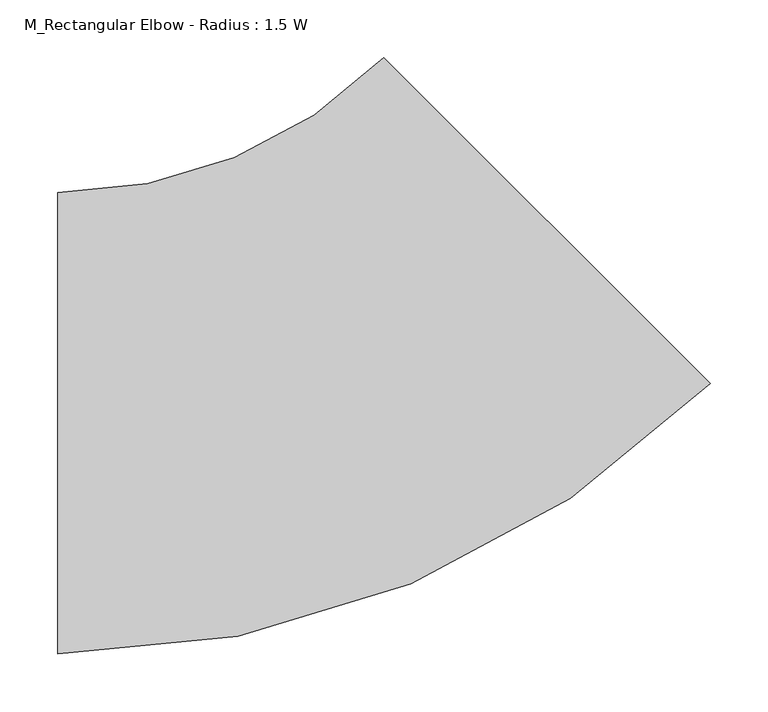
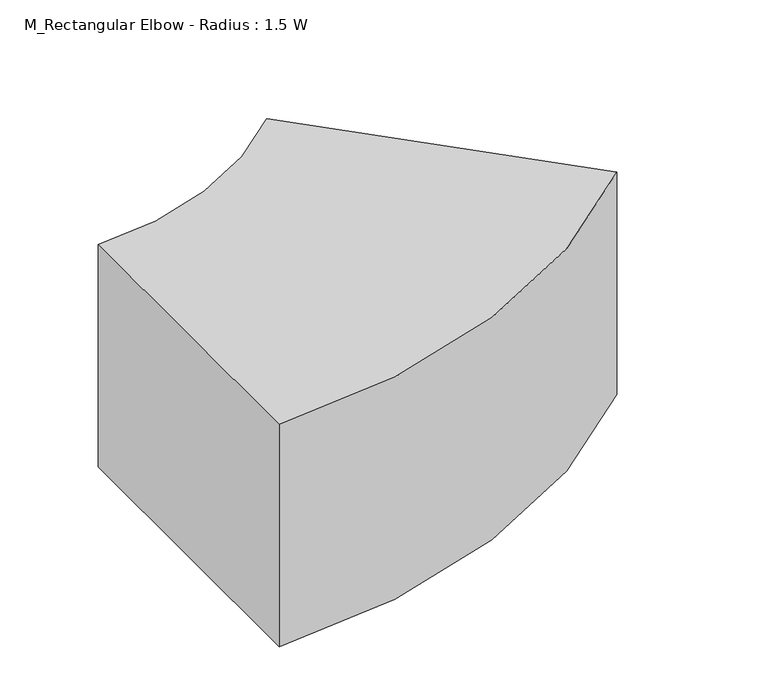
"""IFC4 building model written with IfcOpenShell, lengths in millimetres: duct fitting geometry, M_Rectangular Elbow - Radius : 1.5 W."""

from ifc_helpers import new_model, si_unit, point, frame, frame_2d, origin, place, context, project, spatial, polyline, circle_curve, trimmed, segment, composite_curve, outline, extrude, source, transform, mapped, element, save


def m_rectangular_elbow_radius_1_5_w_52539924(model_context):
    return source(origin(), model_context, "Body", "SweptSolid", [
        extrude(outline(composite_curve([segment(trimmed(circle_curve(frame_2d((-248.5281374, 600.0)), 800.0), [point((317.1572875, 34.3145751))], [point((-248.5281374, -200.0))], False, "CARTESIAN"), True, "CONTINUOUS"), segment(polyline([(-248.5281374, -200.0), (-248.5281374, 200.0)]), True, "CONTINUOUS"), segment(trimmed(circle_curve(frame_2d((-248.5281374, 600.0)), 400.0), [point((-248.5281374, 200.0))], [point((34.3145751, 317.1572875))], True, "CARTESIAN"), True, "CONTINUOUS"), segment(polyline([(34.3145751, 317.1572875), (317.1572875, 34.3145751)]), True, "CONTINUOUS")], self_intersect=False)), frame((0.0, 0.0, -150.0), z_axis=(0.0, 0.0, 1.0), x_axis=(1.0, 0.0, 0.0)), (0.0, 0.0, 1.0), 300.0),
        extrude(outline(composite_curve([segment(trimmed(circle_curve(frame_2d((-248.5281374, 600.0)), 800.0), [point((317.1572875, 34.3145751))], [point((-248.5281374, -200.0))], False, "CARTESIAN"), True, "CONTINUOUS"), segment(polyline([(-248.5281374, -200.0), (-248.5281374, 200.0)]), True, "CONTINUOUS"), segment(trimmed(circle_curve(frame_2d((-248.5281374, 600.0)), 400.0), [point((-248.5281374, 200.0))], [point((34.3145751, 317.1572875))], True, "CARTESIAN"), True, "CONTINUOUS"), segment(polyline([(34.3145751, 317.1572875), (317.1572875, 34.3145751)]), True, "CONTINUOUS")], self_intersect=False)), frame((0.0, 0.0, -150.0), z_axis=(0.0, 0.0, 1.0), x_axis=(1.0, 0.0, 0.0)), (0.0, 0.0, 1.0), 300.0),
        extrude(outline(composite_curve([segment(trimmed(circle_curve(frame_2d((-248.5281374, 600.0)), 800.0), [point((317.1572875, 34.3145751))], [point((-248.5281374, -200.0))], False, "CARTESIAN"), True, "CONTINUOUS"), segment(polyline([(-248.5281374, -200.0), (-248.5281374, 200.0)]), True, "CONTINUOUS"), segment(trimmed(circle_curve(frame_2d((-248.5281374, 600.0)), 400.0), [point((-248.5281374, 200.0))], [point((34.3145751, 317.1572875))], True, "CARTESIAN"), True, "CONTINUOUS"), segment(polyline([(34.3145751, 317.1572875), (317.1572875, 34.3145751)]), True, "CONTINUOUS")], self_intersect=False)), frame((0.0, 0.0, -150.0), z_axis=(0.0, 0.0, 1.0), x_axis=(1.0, 0.0, 0.0)), (0.0, 0.0, 1.0), 300.0),
    ])


if __name__ == "__main__":
    model = new_model("IFC4")
    model_context = context("Model", 3, world=origin())
    ifc_project = project(units=[si_unit("LENGTHUNIT", "METRE", prefix="MILLI")], contexts=[model_context])
    site = spatial("IfcSite", under=ifc_project)
    building = spatial("IfcBuilding", under=site)
    placement = place(None, origin())
    m_rectangular_elbow_radius_1_5_w_shape = m_rectangular_elbow_radius_1_5_w_52539924(model_context)
    element("IfcDuctFitting", 1, ObjectType="M_Rectangular Elbow - Radius : 1.5 W", at=placement, inside=building, context=model_context, shape_type="MappedRepresentation", body=[
        mapped(m_rectangular_elbow_radius_1_5_w_shape, transform((0.0, 0.0, 0.0), x_axis=(1.0, 0.0, 0.0), y_axis=(0.0, 1.0, 0.0), z_axis=(0.0, 0.0, 1.0))),
    ])
    save(model, "model.ifc")
